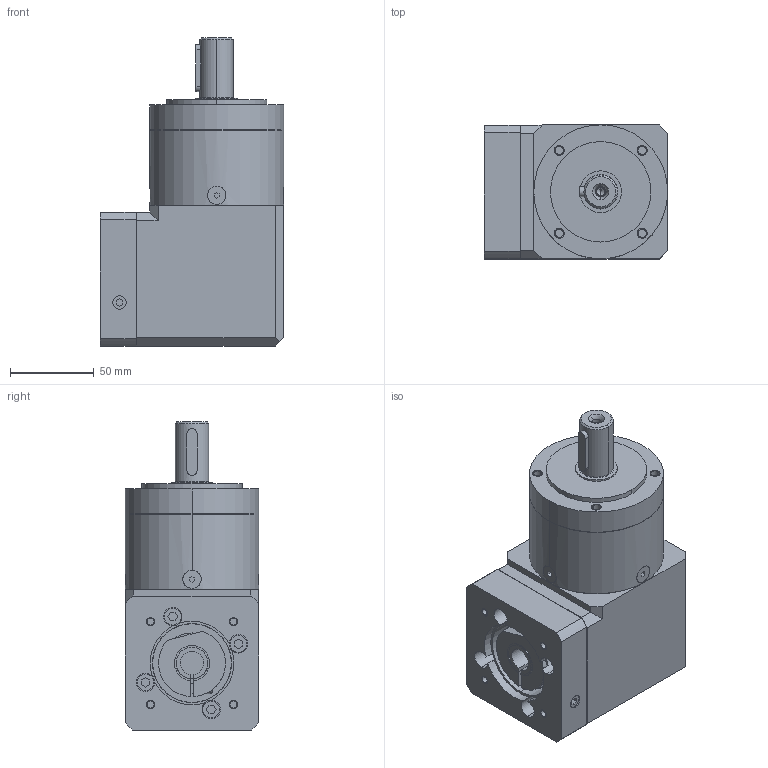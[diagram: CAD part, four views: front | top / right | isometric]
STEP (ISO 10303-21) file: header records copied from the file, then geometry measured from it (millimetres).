
FILE_DESCRIPTION((''),'2;1');
FILE_NAME('MB_WPLE_MASTER','2026-03-26T12:42:59',('agw'),(''),'CREO PARAMETRIC BY PTC INC, 2022124','CREO PARAMETRIC BY PTC INC, 2022124','');
FILE_SCHEMA(('AUTOMOTIVE_DESIGN { 1 0 10303 214 1 1 1 1 }'));
Length unit declared in the file: millimetre
Products named in the file (1): MB_WPLE_MASTER
Bounding box: 109.5 x 80 x 184 mm (x, y, z)
Volume: 1009803 mm3; surface area: 84445.4 mm2
Topology: 1 solids, 10 shells, 289 faces, 727 edges, 529 vertices
Faces by surface type: plane 163, cylinder 112, torus 8, cone 6
Entity records: 10243 total; most frequent: CARTESIAN_POINT 1689, DIRECTION 1577, ORIENTED_EDGE 1340, EDGE_CURVE 688, AXIS2_PLACEMENT_3D 558, VECTOR 461, LINE 461, VERTEX_POINT 453
